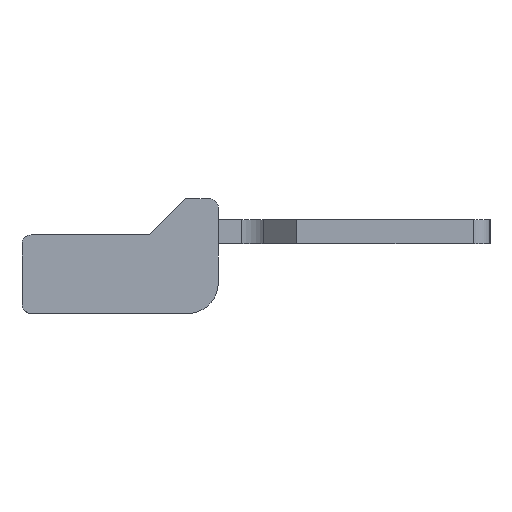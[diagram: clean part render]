
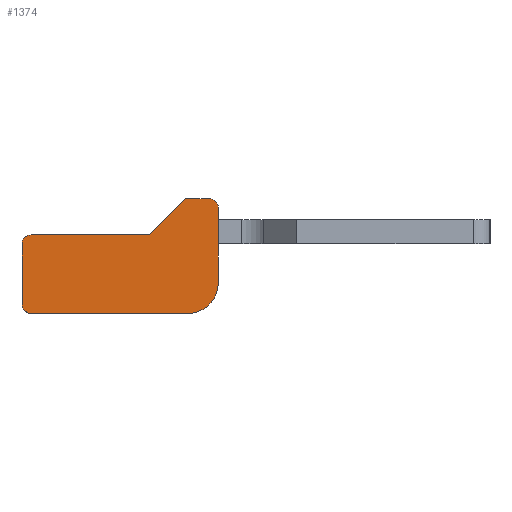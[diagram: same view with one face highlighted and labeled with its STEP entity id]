
A CAD part, left-side view. The second image highlights one B-rep face of the part: STEP entity #1374.
In plain terms, the highlighted planar face has unit normal (-1, 0, 0).
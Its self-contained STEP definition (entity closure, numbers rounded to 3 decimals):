
#141=FACE_OUTER_BOUND('',#1743,.T.);
#320=PLANE('',#4373);
#426=LINE('',#5839,#874);
#499=LINE('',#6028,#947);
#597=LINE('',#6293,#1045);
#604=LINE('',#6311,#1052);
#605=LINE('',#6313,#1053);
#606=LINE('',#6318,#1054);
#607=LINE('',#6320,#1055);
#874=VECTOR('',#4645,1.);
#947=VECTOR('',#4782,1.);
#1045=VECTOR('',#5030,1.);
#1052=VECTOR('',#5047,1.);
#1053=VECTOR('',#5050,1.);
#1054=VECTOR('',#5055,1.);
#1055=VECTOR('',#5056,1.);
#1374=ADVANCED_FACE('',(#141),#320,.F.);
#1743=EDGE_LOOP('',(#2290,#2291,#2292,#2293,#2294,#2295,#2296,#2297,#2298,
#2299,#2300));
#2290=ORIENTED_EDGE('',*,*,#3759,.T.);
#2291=ORIENTED_EDGE('',*,*,#3768,.T.);
#2292=ORIENTED_EDGE('',*,*,#3769,.T.);
#2293=ORIENTED_EDGE('',*,*,#3770,.T.);
#2294=ORIENTED_EDGE('',*,*,#3625,.T.);
#2295=ORIENTED_EDGE('',*,*,#3771,.T.);
#2296=ORIENTED_EDGE('',*,*,#3772,.F.);
#2297=ORIENTED_EDGE('',*,*,#3773,.F.);
#2298=ORIENTED_EDGE('',*,*,#3761,.T.);
#2299=ORIENTED_EDGE('',*,*,#3534,.T.);
#2300=ORIENTED_EDGE('',*,*,#3754,.T.);
#3120=VERTEX_POINT('',#5840);
#3121=VERTEX_POINT('',#5841);
#3203=VERTEX_POINT('',#6027);
#3204=VERTEX_POINT('',#6029);
#3292=VERTEX_POINT('',#6284);
#3295=VERTEX_POINT('',#6292);
#3297=VERTEX_POINT('',#6298);
#3301=VERTEX_POINT('',#6310);
#3302=VERTEX_POINT('',#6314);
#3303=VERTEX_POINT('',#6317);
#3304=VERTEX_POINT('',#6319);
#3534=EDGE_CURVE('',#3120,#3121,#426,.T.);
#3625=EDGE_CURVE('',#3204,#3203,#499,.T.);
#3754=EDGE_CURVE('',#3121,#3292,#4164,.T.);
#3759=EDGE_CURVE('',#3292,#3295,#597,.T.);
#3761=EDGE_CURVE('',#3297,#3120,#4167,.T.);
#3768=EDGE_CURVE('',#3295,#3301,#604,.T.);
#3769=EDGE_CURVE('',#3301,#3302,#605,.T.);
#3770=EDGE_CURVE('',#3302,#3204,#4168,.T.);
#3771=EDGE_CURVE('',#3203,#3303,#4169,.T.);
#3772=EDGE_CURVE('',#3304,#3303,#606,.T.);
#3773=EDGE_CURVE('',#3297,#3304,#607,.T.);
#4164=CIRCLE('',#4362,0.3);
#4167=CIRCLE('',#4367,1.);
#4168=CIRCLE('',#4371,0.3);
#4169=CIRCLE('',#4372,0.3);
#4362=AXIS2_PLACEMENT_3D('',#6283,#5021,#5022);
#4367=AXIS2_PLACEMENT_3D('',#6297,#5035,#5036);
#4371=AXIS2_PLACEMENT_3D('',#6315,#5051,#5052);
#4372=AXIS2_PLACEMENT_3D('',#6316,#5053,#5054);
#4373=AXIS2_PLACEMENT_3D('',#6321,#5057,#5058);
#4645=DIRECTION('',(0.,0.,1.));
#4782=DIRECTION('',(0.,0.,-1.));
#5021=DIRECTION('',(-1.,0.,0.));
#5022=DIRECTION('',(0.,0.,-1.));
#5030=DIRECTION('',(0.,1.,0.));
#5035=DIRECTION('',(-1.,0.,0.));
#5036=DIRECTION('',(0.,0.,-1.));
#5047=DIRECTION('',(0.,0.707,-0.707));
#5050=DIRECTION('',(0.,1.,0.));
#5051=DIRECTION('',(-1.,0.,0.));
#5052=DIRECTION('',(0.,0.,-1.));
#5053=DIRECTION('',(-1.,0.,0.));
#5054=DIRECTION('',(0.,0.,-1.));
#5055=DIRECTION('',(0.,1.,0.));
#5056=DIRECTION('',(0.,1.,0.));
#5057=DIRECTION('',(1.,0.,0.));
#5058=DIRECTION('',(0.,0.,-1.));
#5839=CARTESIAN_POINT('',(-34.75,75.9,0.1));
#5840=CARTESIAN_POINT('',(-34.75,75.9,-1.4));
#5841=CARTESIAN_POINT('',(-34.75,75.9,1.1));
#6027=CARTESIAN_POINT('',(-34.75,82.4,-2.1));
#6028=CARTESIAN_POINT('',(-34.75,82.4,-2.5));
#6029=CARTESIAN_POINT('',(-34.75,82.4,-0.1));
#6283=CARTESIAN_POINT('',(-34.75,76.2,1.1));
#6284=CARTESIAN_POINT('',(-34.75,76.2,1.4));
#6292=CARTESIAN_POINT('',(-34.75,76.98,1.4));
#6293=CARTESIAN_POINT('',(-34.75,71.6,1.4));
#6297=CARTESIAN_POINT('',(-34.75,76.9,-1.4));
#6298=CARTESIAN_POINT('',(-34.75,76.9,-2.4));
#6310=CARTESIAN_POINT('',(-34.75,78.18,0.2));
#6311=CARTESIAN_POINT('',(-34.75,77.39,0.99));
#6313=CARTESIAN_POINT('',(-34.75,81.2,0.2));
#6314=CARTESIAN_POINT('',(-34.75,82.1,0.2));
#6315=CARTESIAN_POINT('',(-34.75,82.1,-0.1));
#6316=CARTESIAN_POINT('',(-34.75,82.1,-2.1));
#6317=CARTESIAN_POINT('',(-34.75,82.1,-2.4));
#6318=CARTESIAN_POINT('',(-34.75,81.2,-2.4));
#6319=CARTESIAN_POINT('',(-34.75,78.505,-2.4));
#6320=CARTESIAN_POINT('',(-34.75,78.2,-2.4));
#6321=CARTESIAN_POINT('',(-34.75,81.2,-2.5));
